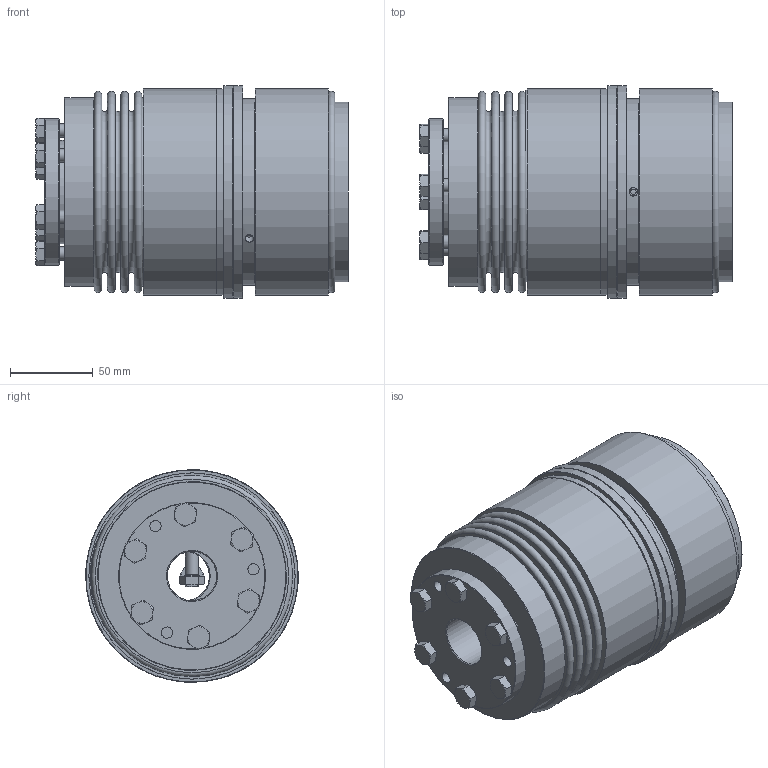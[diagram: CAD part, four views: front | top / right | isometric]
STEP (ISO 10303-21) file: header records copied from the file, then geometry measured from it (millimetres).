
FILE_DESCRIPTION( ( 'Unknown' ), '1' );
FILE_NAME( 'C:/Dokumente und Einstellungen/SKarpstein/Desktop/Korrigierte 3D Modelle/KBK-B-II/KBK-BII-500-150.stp', 'Unknown', ( 'Unknown' ), ( 'Unknown' ), 'XStep 1.0', 'Unknown', ' ' );
FILE_SCHEMA( ( 'automotive_design' ) );
Length unit declared in the file: millimetre
Products named in the file (12): Assem1; Assem2; Hex Screw GradeC_ISO_ISO 4018 - M8 x 35-NN_2; BA500_Standard_2; KB500_Standard_2; Stellring 500; Druckring 500; KBK L-I-500 Grundkörper; Konusbuchse 500; din_en_24017_m8x30_1; BK500_Standard_0; Flansch BI500
Bounding box: 189.3 x 129 x 129 mm (x, y, z)
Volume: 2227681.2 mm3; surface area: 654707.5 mm2
Topology: 38 solids, 38 shells, 789 faces, 1669 edges, 1062 vertices
Faces by surface type: plane 336, cone 237, cylinder 177, torus 39
Full cylindrical faces by diameter (mm): 3.242 x6, 5.1 x6, 5.2 x6, 6.647 x18, 6.8 x27, 8 x20, 9 x30, 11.63 x7, 30 x3, 35 x4, 62 x2, 62.6 x5, 65 x4, 80 x2, 86 x4, 89 x5, 90 x2, 93 x3, 104.5 x2, 107.7 x4, 108.9 x4, 113 x2, 114 x2, 114.5 x3, 125 x4, 129 x2
Entity records: 6201 total; most frequent: CARTESIAN_POINT 1307, DIRECTION 1016, ORIENTED_EDGE 650, AXIS2_PLACEMENT_3D 480, EDGE_LOOP 456, EDGE_CURVE 325, FACE_OUTER_BOUND 312, VERTEX_POINT 277
